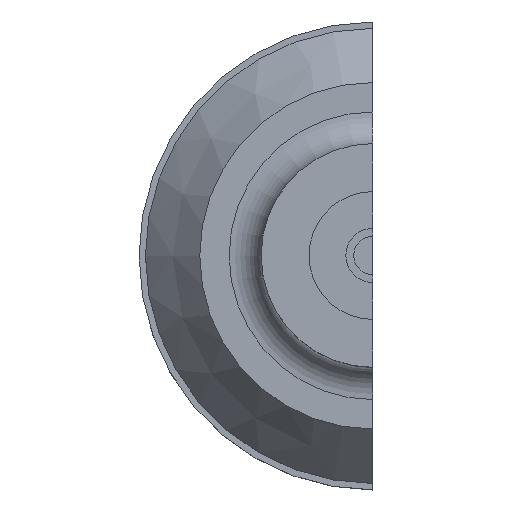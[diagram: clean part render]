
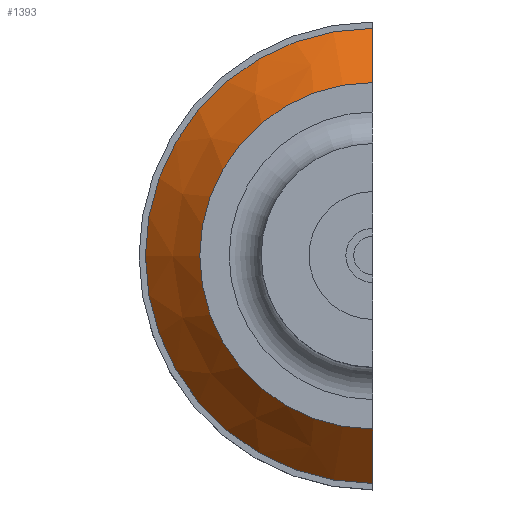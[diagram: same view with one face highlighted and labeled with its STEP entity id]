
A CAD part, top view. The second image highlights one B-rep face of the part: STEP entity #1393.
In plain terms, the highlighted conical face has half-angle 45 degrees and reference radius 54.2 mm.
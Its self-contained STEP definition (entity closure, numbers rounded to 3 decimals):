
#1287 = PLANE('',#1288);
#1288 = AXIS2_PLACEMENT_3D('',#1289,#1290,#1291);
#1289 = CARTESIAN_POINT('',(0.,0.,40.));
#1290 = DIRECTION('',(0.,0.,1.));
#1291 = DIRECTION('',(0.,1.,0.));
#1312 = VERTEX_POINT('',#1313);
#1313 = CARTESIAN_POINT('',(0.,-54.2,40.));
#1327 = PLANE('',#1328);
#1328 = AXIS2_PLACEMENT_3D('',#1329,#1330,#1331);
#1329 = CARTESIAN_POINT('',(0.,-45.,40.));
#1330 = DIRECTION('',(-1.,0.,0.));
#1331 = DIRECTION('',(0.,0.,1.));
#1339 = EDGE_CURVE('',#1340,#1312,#1342,.T.);
#1340 = VERTEX_POINT('',#1341);
#1341 = CARTESIAN_POINT('',(0.,54.2,40.));
#1342 = SURFACE_CURVE('',#1343,(#1348,#1355),.PCURVE_S1.);
#1343 = CIRCLE('',#1344,54.2);
#1344 = AXIS2_PLACEMENT_3D('',#1345,#1346,#1347);
#1345 = CARTESIAN_POINT('',(0.,0.,40.));
#1346 = DIRECTION('',(0.,0.,1.));
#1347 = DIRECTION('',(0.,1.,0.));
#1348 = PCURVE('',#1287,#1349);
#1349 = DEFINITIONAL_REPRESENTATION('',(#1350),#1354);
#1350 = CIRCLE('',#1351,54.2);
#1351 = AXIS2_PLACEMENT_2D('',#1352,#1353);
#1352 = CARTESIAN_POINT('',(0.,0.));
#1353 = DIRECTION('',(1.,0.));
#1354 = ( GEOMETRIC_REPRESENTATION_CONTEXT(2) 
PARAMETRIC_REPRESENTATION_CONTEXT() REPRESENTATION_CONTEXT('2D SPACE',''
  ) );
#1355 = PCURVE('',#1356,#1361);
#1356 = CONICAL_SURFACE('',#1357,54.2,0.785);
#1357 = AXIS2_PLACEMENT_3D('',#1358,#1359,#1360);
#1358 = CARTESIAN_POINT('',(0.,0.,40.));
#1359 = DIRECTION('',(0.,0.,-1.));
#1360 = DIRECTION('',(0.,1.,0.));
#1361 = DEFINITIONAL_REPRESENTATION('',(#1362),#1366);
#1362 = LINE('',#1363,#1364);
#1363 = CARTESIAN_POINT('',(0.,0.));
#1364 = VECTOR('',#1365,1.);
#1365 = DIRECTION('',(-1.,0.));
#1366 = ( GEOMETRIC_REPRESENTATION_CONTEXT(2) 
PARAMETRIC_REPRESENTATION_CONTEXT() REPRESENTATION_CONTEXT('2D SPACE',''
  ) );
#1382 = PLANE('',#1383);
#1383 = AXIS2_PLACEMENT_3D('',#1384,#1385,#1386);
#1384 = CARTESIAN_POINT('',(0.,45.,40.));
#1385 = DIRECTION('',(1.,0.,0.));
#1386 = DIRECTION('',(0.,0.,1.));
#1393 = ADVANCED_FACE('',(#1394),#1356,.T.);
#1394 = FACE_BOUND('',#1395,.F.);
#1395 = EDGE_LOOP('',(#1396,#1397,#1420,#1449));
#1396 = ORIENTED_EDGE('',*,*,#1339,.T.);
#1397 = ORIENTED_EDGE('',*,*,#1398,.T.);
#1398 = EDGE_CURVE('',#1312,#1399,#1401,.T.);
#1399 = VERTEX_POINT('',#1400);
#1400 = CARTESIAN_POINT('',(0.,-71.2,23.)
  );
#1401 = SURFACE_CURVE('',#1402,(#1406,#1413),.PCURVE_S1.);
#1402 = LINE('',#1403,#1404);
#1403 = CARTESIAN_POINT('',(0.,-54.2,40.));
#1404 = VECTOR('',#1405,1.);
#1405 = DIRECTION('',(0.,-0.707,
    -0.707));
#1406 = PCURVE('',#1356,#1407);
#1407 = DEFINITIONAL_REPRESENTATION('',(#1408),#1412);
#1408 = LINE('',#1409,#1410);
#1409 = CARTESIAN_POINT('',(-3.142,0.));
#1410 = VECTOR('',#1411,1.);
#1411 = DIRECTION('',(0.,1.));
#1412 = ( GEOMETRIC_REPRESENTATION_CONTEXT(2) 
PARAMETRIC_REPRESENTATION_CONTEXT() REPRESENTATION_CONTEXT('2D SPACE',''
  ) );
#1413 = PCURVE('',#1327,#1414);
#1414 = DEFINITIONAL_REPRESENTATION('',(#1415),#1419);
#1415 = LINE('',#1416,#1417);
#1416 = CARTESIAN_POINT('',(0.,-9.2));
#1417 = VECTOR('',#1418,1.);
#1418 = DIRECTION('',(-0.707,-0.707));
#1419 = ( GEOMETRIC_REPRESENTATION_CONTEXT(2) 
PARAMETRIC_REPRESENTATION_CONTEXT() REPRESENTATION_CONTEXT('2D SPACE',''
  ) );
#1420 = ORIENTED_EDGE('',*,*,#1421,.F.);
#1421 = EDGE_CURVE('',#1422,#1399,#1424,.T.);
#1422 = VERTEX_POINT('',#1423);
#1423 = CARTESIAN_POINT('',(0.,71.2,23.));
#1424 = SURFACE_CURVE('',#1425,(#1430,#1437),.PCURVE_S1.);
#1425 = CIRCLE('',#1426,71.2);
#1426 = AXIS2_PLACEMENT_3D('',#1427,#1428,#1429);
#1427 = CARTESIAN_POINT('',(0.,0.,23.));
#1428 = DIRECTION('',(0.,0.,1.));
#1429 = DIRECTION('',(0.,1.,0.));
#1430 = PCURVE('',#1356,#1431);
#1431 = DEFINITIONAL_REPRESENTATION('',(#1432),#1436);
#1432 = LINE('',#1433,#1434);
#1433 = CARTESIAN_POINT('',(0.,17.));
#1434 = VECTOR('',#1435,1.);
#1435 = DIRECTION('',(-1.,0.));
#1436 = ( GEOMETRIC_REPRESENTATION_CONTEXT(2) 
PARAMETRIC_REPRESENTATION_CONTEXT() REPRESENTATION_CONTEXT('2D SPACE',''
  ) );
#1437 = PCURVE('',#1438,#1443);
#1438 = CYLINDRICAL_SURFACE('',#1439,71.2);
#1439 = AXIS2_PLACEMENT_3D('',#1440,#1441,#1442);
#1440 = CARTESIAN_POINT('',(0.,0.,23.));
#1441 = DIRECTION('',(0.,0.,-1.));
#1442 = DIRECTION('',(0.,1.,0.));
#1443 = DEFINITIONAL_REPRESENTATION('',(#1444),#1448);
#1444 = LINE('',#1445,#1446);
#1445 = CARTESIAN_POINT('',(0.,0.));
#1446 = VECTOR('',#1447,1.);
#1447 = DIRECTION('',(-1.,0.));
#1448 = ( GEOMETRIC_REPRESENTATION_CONTEXT(2) 
PARAMETRIC_REPRESENTATION_CONTEXT() REPRESENTATION_CONTEXT('2D SPACE',''
  ) );
#1449 = ORIENTED_EDGE('',*,*,#1450,.F.);
#1450 = EDGE_CURVE('',#1340,#1422,#1451,.T.);
#1451 = SURFACE_CURVE('',#1452,(#1456,#1463),.PCURVE_S1.);
#1452 = LINE('',#1453,#1454);
#1453 = CARTESIAN_POINT('',(0.,54.2,40.));
#1454 = VECTOR('',#1455,1.);
#1455 = DIRECTION('',(0.,0.707,-0.707));
#1456 = PCURVE('',#1356,#1457);
#1457 = DEFINITIONAL_REPRESENTATION('',(#1458),#1462);
#1458 = LINE('',#1459,#1460);
#1459 = CARTESIAN_POINT('',(0.,0.));
#1460 = VECTOR('',#1461,1.);
#1461 = DIRECTION('',(0.,1.));
#1462 = ( GEOMETRIC_REPRESENTATION_CONTEXT(2) 
PARAMETRIC_REPRESENTATION_CONTEXT() REPRESENTATION_CONTEXT('2D SPACE',''
  ) );
#1463 = PCURVE('',#1382,#1464);
#1464 = DEFINITIONAL_REPRESENTATION('',(#1465),#1469);
#1465 = LINE('',#1466,#1467);
#1466 = CARTESIAN_POINT('',(0.,-9.2));
#1467 = VECTOR('',#1468,1.);
#1468 = DIRECTION('',(-0.707,-0.707));
#1469 = ( GEOMETRIC_REPRESENTATION_CONTEXT(2) 
PARAMETRIC_REPRESENTATION_CONTEXT() REPRESENTATION_CONTEXT('2D SPACE',''
  ) );
